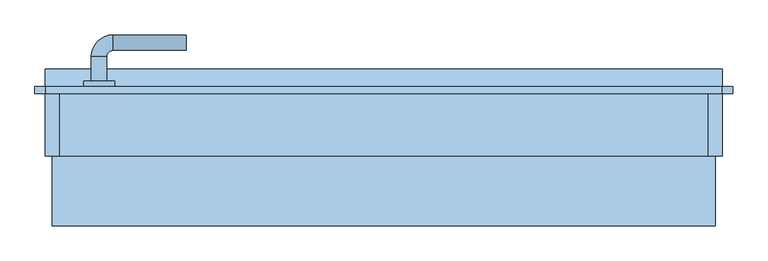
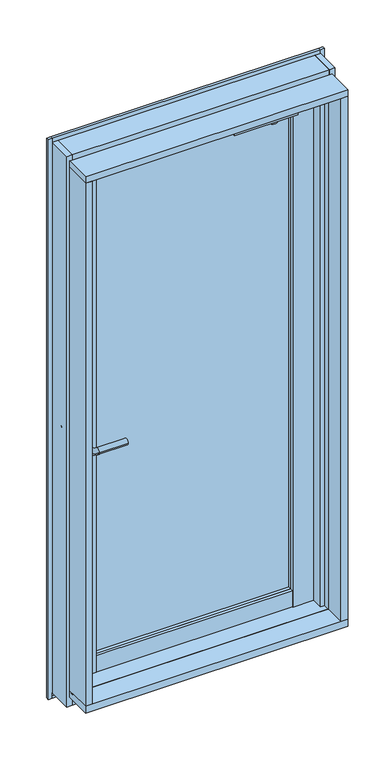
"""IFC4 building model written with IfcOpenShell, lengths in millimetres: window geometry, FNSⅡ100R_個別防火_ALC枠_単窓 : 片開き框ドア."""

from ifc_helpers import new_model, si_unit, point, frame, frame_2d, origin, place, context, project, spatial, polyline, circle_curve, ellipse_curve, trimmed, segment, composite_curve, outline, extrude, faceted_brep, source, transform, mapped, element, save
from ifc_brep_helpers import plane_surface, cylinder_surface, revolved_surface, advanced_brep


def window_f159a7e3(model_context):
    return source(origin(), model_context, "Body", "SolidModel", [
        extrude(outline(composite_curve([segment(trimmed(circle_curve(frame_2d((269.0, 5.3)), 16.1), [point((285.1, 5.3))], [point((252.9, 5.3))], False, "CARTESIAN"), True, "CONTINUOUS"), segment(trimmed(circle_curve(frame_2d((269.0, 5.3)), 16.1), [point((252.9, 5.3))], [point((285.1, 5.3))], False, "CARTESIAN"), True, "CONTINUOUS")], self_intersect=False)), frame((0.0, 0.0, 2807.0), z_axis=(0.0, 0.0, 1.0), x_axis=(1.0, 0.0, 0.0)), (0.0, 0.0, 1.0), 8.0),
        extrude(outline(polyline([(350.0, 30.8), (350.0, -14.2), (120.0, -14.2), (120.0, 30.8), (350.0, 30.8)])), frame((0.0, 0.0, 2815.0), z_axis=(0.0, 0.0, 1.0), x_axis=(1.0, 0.0, 0.0)), (0.0, 0.0, 1.0), 51.0),
        advanced_brep(
        [(-397.0, 90.0, 1800.0), (-419.0, 90.0, 1800.0), (-419.0, 133.0, 1800.0), (-397.0, 133.0, 1800.0), (-388.0, 142.0, 1800.0), (-388.0, 164.0, 1800.0), (-283.0, 164.0, 1800.0), (-283.0, 142.0, 1800.0)],
        [
            (0, 1, circle_curve(frame((-408.0, 90.0, 1800.0), z_axis=(0.0, 1.0, 0.0), x_axis=(-1.0, 0.0, 0.0)), 11.0)),
            (1, 2),
            (2, 3, circle_curve(frame((-408.0, 133.0, 1800.0), z_axis=(0.0, -1.0, 0.0), x_axis=(-1.0, 0.0, 0.0)), 11.0)),
            (3, 0),
            (4, 5, circle_curve(frame((-388.0, 153.0, 1800.0), z_axis=(1.0, 0.0, 0.0), x_axis=(0.0, 1.0, 0.0)), 11.0)),
            (5, 6),
            (6, 7, circle_curve(frame((-283.0, 153.0, 1800.0), z_axis=(-1.0, 0.0, 0.0), x_axis=(0.0, 1.0, 0.0)), 11.0)),
            (7, 4),
            (5, 4, circle_curve(frame((-388.0, 153.0, 1800.0), z_axis=(1.0, 0.0, 0.0), x_axis=(0.0, 1.0, 0.0)), 11.0)),
            (7, 6, circle_curve(frame((-283.0, 153.0, 1800.0), z_axis=(-1.0, 0.0, 0.0), x_axis=(0.0, 1.0, 0.0)), 11.0)),
            (0, 1, circle_curve(frame((-408.0, 90.0, 1800.0), z_axis=(0.0, -1.0, 0.0), x_axis=(-1.0, 0.0, 0.0)), 11.0)),
            (3, 2, circle_curve(frame((-408.0, 133.0, 1800.0), z_axis=(0.0, -1.0, 0.0), x_axis=(-1.0, 0.0, 0.0)), 11.0)),
            (4, 3, circle_curve(frame((-388.0, 133.0, 1800.0), z_axis=(0.0, 0.0, 1.0), x_axis=(-1.0, 0.0, 0.0)), 9.0)),
            (2, 5, circle_curve(frame((-388.0, 133.0, 1800.0), z_axis=(0.0, 0.0, -1.0), x_axis=(-1.0, 0.0, 0.0)), 31.0)),
        ],
        [
            cylinder_surface(frame((-408.0, 90.0, 1800.0), z_axis=(0.0, -1.0, 0.0), x_axis=(-1.0, 0.0, 0.0)), 11.0),
            cylinder_surface(frame((-388.0, 153.0, 1800.0), z_axis=(-1.0, 0.0, 0.0), x_axis=(0.0, 1.0, 0.0)), 11.0),
            plane_surface(frame((-408.0, 90.0, 1800.0), z_axis=(0.0, -1.0, 0.0), x_axis=(0.0, 0.0, 1.0))),
            revolved_surface(trimmed(ellipse_curve(frame((-408.0, 133.0, 1800.0), z_axis=(0.0, -1.0, 0.0), x_axis=(-1.0, 0.0, 0.0)), 11.0, 11.0), [point((-419.0, 133.0, 1800.0))], [point((-397.0, 133.0, 1800.0))], True, "CARTESIAN"), (-388.0, 133.0, 1800.0), (0.0, 0.0, -1.0)),
            revolved_surface(trimmed(ellipse_curve(frame((-408.0, 133.0, 1800.0), z_axis=(0.0, -1.0, 0.0), x_axis=(-1.0, 0.0, 0.0)), 11.0, 11.0), [point((-397.0, 133.0, 1800.0))], [point((-419.0, 133.0, 1800.0))], True, "CARTESIAN"), (-388.0, 133.0, 1800.0), (0.0, 0.0, -1.0)),
            plane_surface(frame((-283.0, 153.0, 1800.0), z_axis=(1.0, 0.0, 0.0), x_axis=(0.0, 0.0, 1.0))),
        ],
        [
            (0, [[1, 2, 3, 4]]),
            (1, [[5, 6, 7, 8]]),
            (1, [[9, -8, 10, -6]]),
            (2, [[11, -1]]),
            (0, [[-11, -4, 12, -2]]),
            (3, [[13, -3, 14, -5]]),
            (4, [[-14, -12, -13, -9]]),
            (5, [[-7, -10]]),
        ],
    ),
        extrude(outline(composite_curve([segment(trimmed(circle_curve(frame_2d((1800.0, -408.0)), 22.0), [point((1800.0, -430.0))], [point((1800.0, -386.0))], False, "CARTESIAN"), True, "CONTINUOUS"), segment(trimmed(circle_curve(frame_2d((1800.0, -408.0)), 22.0), [point((1800.0, -386.0))], [point((1800.0, -430.0))], False, "CARTESIAN"), True, "CONTINUOUS")], self_intersect=False)), frame((0.0, 90.0, 0.0), z_axis=(0.0, 1.0, 0.0), x_axis=(0.0, 0.0, 1.0)), (0.0, 0.0, 1.0), 8.0),
        extrude(outline(composite_curve([segment(trimmed(circle_curve(frame_2d((1800.0, -408.0)), 22.0), [point((1800.0, -386.0))], [point((1800.0, -430.0))], False, "CARTESIAN"), True, "CONTINUOUS"), segment(trimmed(circle_curve(frame_2d((1800.0, -408.0)), 22.0), [point((1800.0, -430.0))], [point((1800.0, -386.0))], False, "CARTESIAN"), True, "CONTINUOUS")], self_intersect=False)), frame((0.0, 21.0, 0.0), z_axis=(0.0, 1.0, 0.0), x_axis=(0.0, 0.0, 1.0)), (0.0, 0.0, 1.0), 8.0),
        advanced_brep(
        [(-283.0, -45.0, 1800.0), (-283.0, -23.0, 1800.0), (-419.0, 29.0, 1800.0), (-397.0, 29.0, 1800.0), (-419.0, -14.0, 1800.0), (-397.0, -14.0, 1800.0), (-388.0, -23.0, 1800.0), (-388.0, -45.0, 1800.0)],
        [
            (0, 1, circle_curve(frame((-283.0, -34.0, 1800.0), z_axis=(1.0, 0.0, 0.0), x_axis=(0.0, 1.0, 0.0)), 11.0)),
            (1, 0, circle_curve(frame((-283.0, -34.0, 1800.0), z_axis=(1.0, 0.0, 0.0), x_axis=(0.0, 1.0, 0.0)), 11.0)),
            (2, 3, circle_curve(frame((-408.0, 29.0, 1800.0), z_axis=(0.0, 1.0, 0.0), x_axis=(1.0, 0.0, 0.0)), 11.0)),
            (3, 2, circle_curve(frame((-408.0, 29.0, 1800.0), z_axis=(0.0, 1.0, 0.0), x_axis=(1.0, 0.0, 0.0)), 11.0)),
            (2, 4),
            (4, 5, circle_curve(frame((-408.0, -14.0, 1800.0), z_axis=(0.0, 1.0, 0.0), x_axis=(1.0, 0.0, 0.0)), 11.0)),
            (5, 3),
            (5, 4, circle_curve(frame((-408.0, -14.0, 1800.0), z_axis=(0.0, 1.0, 0.0), x_axis=(1.0, 0.0, 0.0)), 11.0)),
            (6, 5, circle_curve(frame((-388.0, -14.0, 1800.0), z_axis=(0.0, 0.0, -1.0), x_axis=(-1.0, 0.0, 0.0)), 9.0)),
            (4, 7, circle_curve(frame((-388.0, -14.0, 1800.0), z_axis=(0.0, 0.0, 1.0), x_axis=(-1.0, 0.0, 0.0)), 31.0)),
            (7, 6, circle_curve(frame((-388.0, -34.0, 1800.0), z_axis=(-1.0, 0.0, 0.0), x_axis=(0.0, 1.0, 0.0)), 11.0)),
            (6, 7, circle_curve(frame((-388.0, -34.0, 1800.0), z_axis=(-1.0, 0.0, 0.0), x_axis=(0.0, 1.0, 0.0)), 11.0)),
            (7, 0),
            (1, 6),
        ],
        [
            plane_surface(frame((-283.0, -34.0, 1800.0), z_axis=(1.0, 0.0, 0.0), x_axis=(0.0, 0.0, 1.0))),
            plane_surface(frame((-408.0, 29.0, 1800.0), z_axis=(0.0, 1.0, 0.0), x_axis=(0.0, 0.0, 1.0))),
            cylinder_surface(frame((-408.0, 29.0, 1800.0), z_axis=(0.0, 1.0, 0.0), x_axis=(1.0, 0.0, 0.0)), 11.0),
            revolved_surface(trimmed(ellipse_curve(frame((-408.0, -14.0, 1800.0), z_axis=(0.0, 1.0, 0.0), x_axis=(1.0, 0.0, 0.0)), 11.0, 11.0), [point((-419.0, -14.0, 1800.0))], [point((-397.0, -14.0, 1800.0))], True, "CARTESIAN"), (-388.0, -14.0, 1800.0), (0.0, 0.0, 1.0)),
            revolved_surface(trimmed(ellipse_curve(frame((-408.0, -14.0, 1800.0), z_axis=(0.0, 1.0, 0.0), x_axis=(1.0, 0.0, 0.0)), 11.0, 11.0), [point((-397.0, -14.0, 1800.0))], [point((-419.0, -14.0, 1800.0))], True, "CARTESIAN"), (-388.0, -14.0, 1800.0), (0.0, 0.0, 1.0)),
            cylinder_surface(frame((-388.0, -34.0, 1800.0), z_axis=(-1.0, 0.0, 0.0), x_axis=(0.0, 1.0, 0.0)), 11.0),
        ],
        [
            (0, [[1, 2]]),
            (1, [[3, 4]]),
            (2, [[-3, 5, 6, 7]]),
            (2, [[-4, -7, 8, -5]]),
            (3, [[9, -6, 10, 11]]),
            (4, [[-10, -8, -9, 12]]),
            (5, [[-11, 13, -2, 14]]),
            (5, [[-12, -14, -1, -13]]),
        ],
    ),
        extrude(outline(polyline([(-356.0, 60.0), (356.0, 60.0), (356.0, 54.0), (-356.0, 54.0), (-356.0, 60.0)])), frame((0.0, 0.0, 967.0), z_axis=(0.0, 0.0, 1.0), x_axis=(1.0, 0.0, 0.0)), (0.0, 0.0, 1.0), 1822.0),
        extrude(outline(polyline([(-356.0, 78.0), (356.0, 78.0), (356.0, 72.0), (-356.0, 72.0), (-356.0, 78.0)])), frame((0.0, 0.0, 967.0), z_axis=(0.0, 0.0, 1.0), x_axis=(1.0, 0.0, 0.0)), (0.0, 0.0, 1.0), 1822.0),
        extrude(outline(polyline([(356.0, 29.0), (356.0, 41.0), (431.0, 41.0), (431.0, 29.0), (356.0, 29.0)])), frame((0.0, 0.0, 904.0), z_axis=(0.0, 0.0, 1.0), x_axis=(1.0, 0.0, 0.0)), (0.0, 0.0, 1.0), 1973.0),
        extrude(outline(polyline([(-356.0, 29.0), (-431.0, 29.0), (-431.0, 41.0), (-356.0, 41.0), (-356.0, 29.0)])), frame((0.0, 0.0, 904.0), z_axis=(0.0, 0.0, 1.0), x_axis=(1.0, 0.0, 0.0)), (0.0, 0.0, 1.0), 1973.0),
        extrude(outline(polyline([(446.0, 90.0), (446.0, 41.0), (356.0, 41.0), (356.0, 90.0), (446.0, 90.0)])), frame((0.0, 0.0, 862.0), z_axis=(0.0, 0.0, 1.0), x_axis=(1.0, 0.0, 0.0)), (0.0, 0.0, 1.0), 2032.0),
        extrude(outline(polyline([(-446.0, 90.0), (-356.0, 90.0), (-356.0, 41.0), (-446.0, 41.0), (-446.0, 90.0)])), frame((0.0, 0.0, 862.0), z_axis=(0.0, 0.0, 1.0), x_axis=(1.0, 0.0, 0.0)), (0.0, 0.0, 1.0), 2032.0),
        extrude(outline(polyline([(356.0, 41.0), (356.0, 30.8), (-356.0, 30.8), (-356.0, 41.0), (356.0, 41.0)])), frame((0.0, 0.0, 904.0), z_axis=(0.0, 0.0, 1.0), x_axis=(1.0, 0.0, 0.0)), (0.0, 0.0, 1.0), 63.0),
        extrude(outline(polyline([(356.0, 90.0), (356.0, 41.0), (-356.0, 41.0), (-356.0, 90.0), (356.0, 90.0)])), frame((0.0, 0.0, 862.0), z_axis=(0.0, 0.0, 1.0), x_axis=(1.0, 0.0, 0.0)), (0.0, 0.0, 1.0), 105.0),
        extrude(outline(polyline([(356.0, 41.0), (356.0, 30.8), (-356.0, 30.8), (-356.0, 41.0), (356.0, 41.0)])), frame((0.0, 0.0, 2789.0), z_axis=(0.0, 0.0, 1.0), x_axis=(1.0, 0.0, 0.0)), (0.0, 0.0, 1.0), 88.0),
        extrude(outline(polyline([(356.0, 90.0), (356.0, 41.0), (-356.0, 41.0), (-356.0, 90.0), (356.0, 90.0)])), frame((0.0, 0.0, 2789.0), z_axis=(0.0, 0.0, 1.0), x_axis=(1.0, 0.0, 0.0)), (0.0, 0.0, 1.0), 105.0),
        faceted_brep([(-450.0, 90.0, 850.0), (-450.0, 38.0, 850.0), (-436.3, 38.0, 850.0), (-436.3, 33.0, 850.0), (-465.0, 33.0, 850.0), (-465.0, 90.0, 850.0), (-485.0, 90.0, 2945.0), (-485.0, -10.0, 2945.0), (-465.0, -10.0, 2945.0), (-465.0, 90.0, 2945.0), (-485.0, 90.0, 840.0), (-465.0, 90.0, 840.0), (-465.0, -10.0, 840.0), (-485.0, -10.0, 840.0), (-465.0, 33.0, 2900.0), (-465.0, 90.0, 2900.0), (-450.0, 90.0, 2900.0), (-436.3, 33.0, 2900.0), (-436.3, 38.0, 2900.0), (-450.0, 38.0, 2900.0)], [[[0, 1, 2, 3, 4, 5]], [[6, 7, 8, 9]], [[10, 11, 12, 13]], [[7, 6, 10, 13]], [[8, 7, 13, 12]], [[9, 8, 12, 11, 5, 4, 14, 15]], [[6, 9, 15, 16, 0, 5, 11, 10]], [[16, 15, 14, 17, 18, 19]], [[17, 14, 4, 3]], [[16, 19, 1, 0]], [[18, 17, 3, 2]], [[19, 18, 2, 1]]]),
        faceted_brep([(450.0, 90.0, 850.0), (465.0, 90.0, 850.0), (465.0, 33.0, 850.0), (436.3, 33.0, 850.0), (436.3, 38.0, 850.0), (450.0, 38.0, 850.0), (485.0, -10.0, 2945.0), (465.0, -10.0, 2945.0), (465.0, -10.0, 840.0), (485.0, -10.0, 840.0), (436.3, 38.0, 2900.0), (450.0, 38.0, 2900.0), (485.0, 90.0, 2945.0), (465.0, 90.0, 2945.0), (465.0, 90.0, 840.0), (485.0, 90.0, 840.0), (450.0, 90.0, 2900.0), (436.3, 33.0, 2900.0), (465.0, 33.0, 2900.0), (465.0, 90.0, 2900.0)], [[[0, 1, 2, 3, 4, 5]], [[6, 7, 8, 9]], [[10, 11, 5, 4]], [[7, 6, 12, 13]], [[8, 14, 15, 9]], [[16, 11, 10, 17, 18, 19]], [[12, 6, 9, 15]], [[13, 12, 15, 14, 1, 0, 16, 19]], [[7, 13, 19, 18, 2, 1, 14, 8]], [[11, 16, 0, 5]], [[17, 10, 4, 3]], [[18, 17, 3, 2]]]),
        extrude(outline(polyline([(-465.0, -10.0), (-465.0, 33.0), (-435.0, 33.0), (-435.0, -7.5), (-450.0, -7.5), (-450.0, -30.0), (-453.0, -30.0), (-453.0, -10.0), (-465.0, -10.0)])), frame((0.0, 0.0, 900.0), z_axis=(0.0, 0.0, 1.0), x_axis=(1.0, 0.0, 0.0)), (0.0, 0.0, 1.0), 2003.0),
        extrude(outline(polyline([(465.0, -10.0), (453.0, -10.0), (453.0, -30.0), (450.0, -30.0), (450.0, -7.5), (435.0, -7.5), (435.0, 33.0), (465.0, 33.0), (465.0, -10.0)])), frame((0.0, 0.0, 900.0), z_axis=(0.0, 0.0, 1.0), x_axis=(1.0, 0.0, 0.0)), (0.0, 0.0, 1.0), 2003.0),
        extrude(outline(polyline([(-10.0, 884.0), (-10.0, 897.0), (-30.0, 897.0), (-30.0, 900.0), (37.0, 900.0), (37.0, 884.0), (-10.0, 884.0)])), frame((-453.0, 0.0, 0.0), z_axis=(1.0, 0.0, 0.0), x_axis=(0.0, 1.0, 0.0)), (0.0, 0.0, 1.0), 906.0),
        extrude(outline(polyline([(90.0, 840.0), (-10.0, 840.0), (-10.0, 884.0), (37.0, 884.0), (37.0, 850.0), (90.0, 850.0), (90.0, 840.0)])), frame((-465.0, 0.0, 0.0), z_axis=(1.0, 0.0, 0.0), x_axis=(0.0, 1.0, 0.0)), (0.0, 0.0, 1.0), 930.0),
        extrude(outline(polyline([(32.7, 2884.0), (-4.0, 2884.0), (-4.0, 2900.0), (-30.0, 2900.0), (-30.0, 2903.0), (-10.0, 2903.0), (-10.0, 2914.5), (32.7, 2914.5), (32.7, 2884.0)])), frame((-450.0, 0.0, 0.0), z_axis=(1.0, 0.0, 0.0), x_axis=(0.0, 1.0, 0.0)), (0.0, 0.0, 1.0), 900.0),
        extrude(outline(polyline([(90.0, 2900.0), (38.0, 2900.0), (38.0, 2884.0), (32.7, 2884.0), (32.7, 2914.5), (-10.0, 2914.5), (-10.0, 2945.0), (90.0, 2945.0), (90.0, 2900.0)])), frame((-465.0, 0.0, 0.0), z_axis=(1.0, 0.0, 0.0), x_axis=(0.0, 1.0, 0.0)), (0.0, 0.0, 1.0), 930.0),
        extrude(outline(polyline([(-110.0, 900.0), (-30.0, 900.0), (-30.0, 897.0), (-10.0, 897.0), (-10.0, 875.0), (-110.0, 875.0), (-110.0, 900.0)])), frame((-475.0, 0.0, 0.0), z_axis=(1.0, 0.0, 0.0), x_axis=(0.0, 1.0, 0.0)), (0.0, 0.0, 1.0), 950.0),
        extrude(outline(polyline([(-485.0, 80.0), (-485.0, 90.0), (485.0, 90.0), (485.0, 80.0), (-485.0, 80.0)])), frame((0.0, 0.0, 830.0), z_axis=(0.0, 0.0, 1.0), x_axis=(1.0, 0.0, 0.0)), (0.0, 0.0, 1.0), 10.0),
        extrude(outline(polyline([(100.0, 807.0), (100.0, 820.0), (80.0, 820.0), (80.0, 830.0), (90.0, 830.0), (115.0, 825.0), (115.0, 807.0), (100.0, 807.0)])), frame((-485.0, 0.0, 0.0), z_axis=(1.0, 0.0, 0.0), x_axis=(0.0, 1.0, 0.0)), (0.0, 0.0, 1.0), 970.0),
        extrude(outline(polyline([(475.0, -10.0), (475.0, -110.0), (450.0, -110.0), (450.0, -30.0), (453.0, -30.0), (453.0, -10.0), (475.0, -10.0)])), frame((0.0, 0.0, 900.0), z_axis=(0.0, 0.0, 1.0), x_axis=(1.0, 0.0, 0.0)), (0.0, 0.0, 1.0), 2000.0),
        extrude(outline(polyline([(-453.0, -10.0), (-453.0, -30.0), (-450.0, -30.0), (-450.0, -110.0), (-475.0, -110.0), (-475.0, -10.0), (-453.0, -10.0)])), frame((0.0, 0.0, 900.0), z_axis=(0.0, 0.0, 1.0), x_axis=(1.0, 0.0, 0.0)), (0.0, 0.0, 1.0), 2000.0),
        extrude(outline(polyline([(-500.0, 90.0), (-485.0, 90.0), (-485.0, 80.0), (-500.0, 80.0), (-500.0, 90.0)])), frame((0.0, 0.0, 820.0), z_axis=(0.0, 0.0, 1.0), x_axis=(1.0, 0.0, 0.0)), (0.0, 0.0, 1.0), 2140.0),
        extrude(outline(polyline([(500.0, 90.0), (500.0, 80.0), (485.0, 80.0), (485.0, 90.0), (500.0, 90.0)])), frame((0.0, 0.0, 820.0), z_axis=(0.0, 0.0, 1.0), x_axis=(1.0, 0.0, 0.0)), (0.0, 0.0, 1.0), 2140.0),
        extrude(outline(polyline([(-110.0, 2925.0), (-10.0, 2925.0), (-10.0, 2903.0), (-30.0, 2903.0), (-30.0, 2900.0), (-110.0, 2900.0), (-110.0, 2925.0)])), frame((-475.0, 0.0, 0.0), z_axis=(1.0, 0.0, 0.0), x_axis=(0.0, 1.0, 0.0)), (0.0, 0.0, 1.0), 950.0),
        extrude(outline(polyline([(-485.0, 80.0), (-485.0, 90.0), (485.0, 90.0), (485.0, 80.0), (-485.0, 80.0)])), frame((0.0, 0.0, 2945.0), z_axis=(0.0, 0.0, 1.0), x_axis=(1.0, 0.0, 0.0)), (0.0, 0.0, 1.0), 15.0),
    ])


if __name__ == "__main__":
    model = new_model("IFC4")
    model_context = context("Model", 3, world=origin())
    ifc_project = project(units=[si_unit("LENGTHUNIT", "METRE", prefix="MILLI")], contexts=[model_context])
    site = spatial("IfcSite", under=ifc_project)
    building = spatial("IfcBuilding", under=site)
    placement = place(None, origin())
    window_shape = window_f159a7e3(model_context)
    element("IfcWindow", 1, ObjectType="FNSⅡ100R_個別防火_ALC枠_単窓 : 片開き框ドア", at=placement, inside=building, context=model_context, shape_type="MappedRepresentation", body=[
        mapped(window_shape, transform((0.0, 0.0, 0.0), x_axis=(1.0, 0.0, 0.0), y_axis=(0.0, 1.0, 0.0), z_axis=(0.0, 0.0, 1.0))),
    ])
    save(model, "model.ifc")
